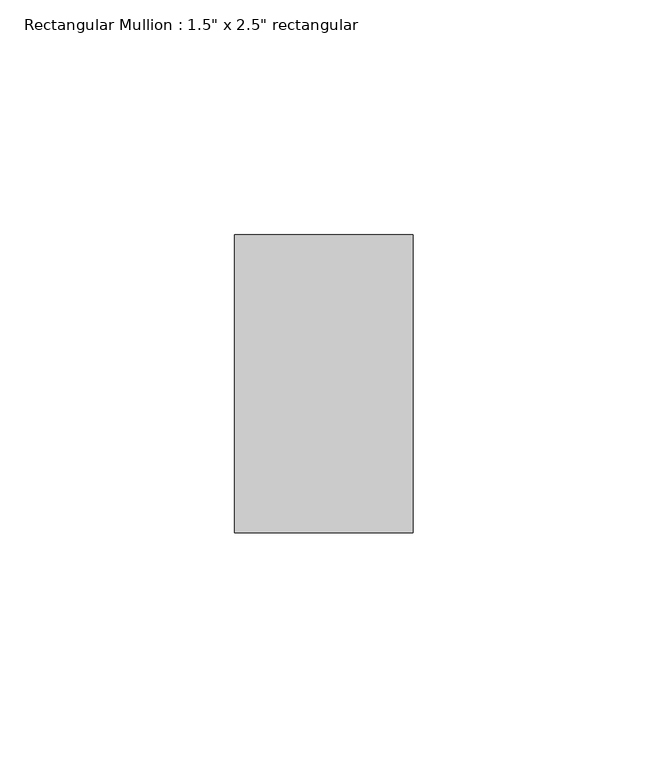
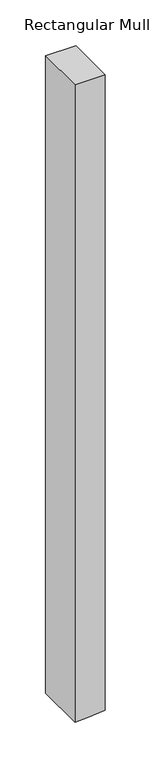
"""IFC4 building model written with IfcOpenShell, lengths in millimetres: member geometry."""

from ifc_helpers import new_model, si_unit, frame, origin, place, context, project, spatial, polyline, outline, extrude, source, transform, mapped, element, save


def member_60456532(model_context):
    return source(origin(), model_context, "Body", "SweptSolid", [
        extrude(outline(polyline([(0.0, 19.05), (0.0, -19.05), (-847.4896566, -19.05), (-846.9172728, -3.5936997), (-845.1882329, 19.05), (0.0, 19.05)])), frame((0.0, -31.75, 0.0), z_axis=(0.0, 1.0, 0.0), x_axis=(0.0, 0.0, 1.0)), (0.0, 0.0, 1.0), 63.5),
    ])


if __name__ == "__main__":
    model = new_model("IFC4")
    model_context = context("Model", 3, world=origin())
    ifc_project = project(units=[si_unit("LENGTHUNIT", "METRE", prefix="MILLI")], contexts=[model_context])
    site = spatial("IfcSite", under=ifc_project)
    building = spatial("IfcBuilding", under=site)
    placement = place(None, origin())
    member_shape = member_60456532(model_context)
    element("IfcMember", 1, ObjectType="Rectangular Mullion : 1.5\" x 2.5\" rectangular", at=placement, inside=building, context=model_context, shape_type="MappedRepresentation", body=[
        mapped(member_shape, transform((0.0, 0.0, 0.0), x_axis=(1.0, 0.0, 0.0), y_axis=(0.0, 1.0, 0.0), z_axis=(0.0, 0.0, 1.0))),
    ])
    save(model, "model.ifc")
